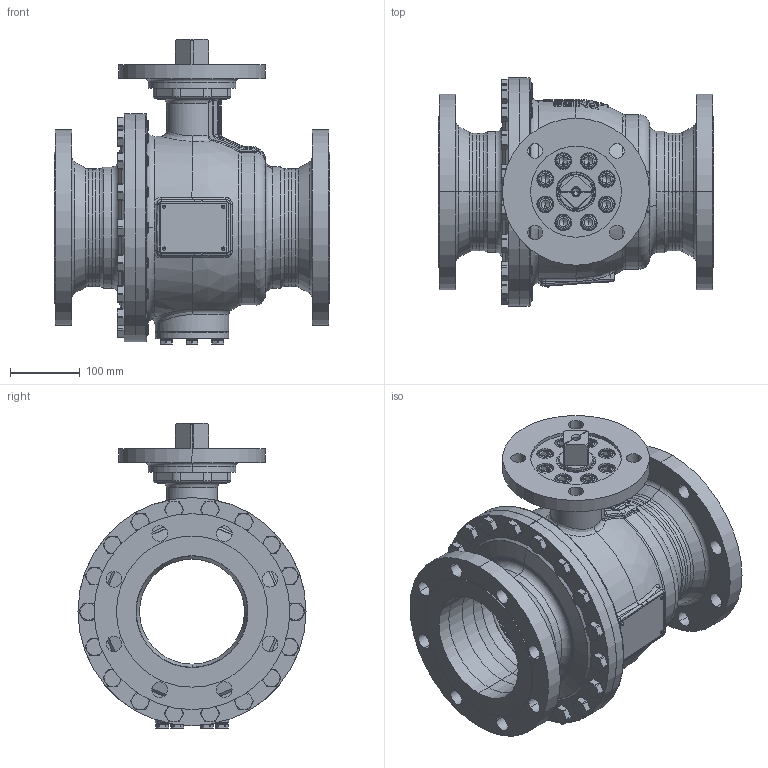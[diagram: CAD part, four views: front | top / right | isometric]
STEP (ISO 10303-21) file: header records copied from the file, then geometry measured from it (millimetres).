
FILE_DESCRIPTION((''),'2;1');
FILE_NAME('KHI-F_150_CL150-F16-4_SW0001','2026-02-05T11:59:23',('fischerkl'),('KLINGER'),'CREO PARAMETRIC BY PTC INC, 2023014','CREO PARAMETRIC BY PTC INC, 2023014','');
FILE_SCHEMA(('CONFIG_CONTROL_DESIGN'));
Products named in the file (1): KHI-F_150_CL150-F16-4_SW0001
Bounding box: 394 x 326 x 436.2 mm (x, y, z)
Volume: 8254678.3 mm3; surface area: 1568329.7 mm2
Topology: 1 solids, 4 shells, 3730 faces, 9538 edges, 5948 vertices
Faces by surface type: plane 2285, cylinder 674, cone 370, torus 260, bspline 113, sphere 28
Entity records: 144420 total; most frequent: CARTESIAN_POINT 56323, ORIENTED_EDGE 19024, DIRECTION 17412, EDGE_CURVE 9512, AXIS2_PLACEMENT_3D 6142, VERTEX_POINT 5948, VECTOR 5128, LINE 5128
